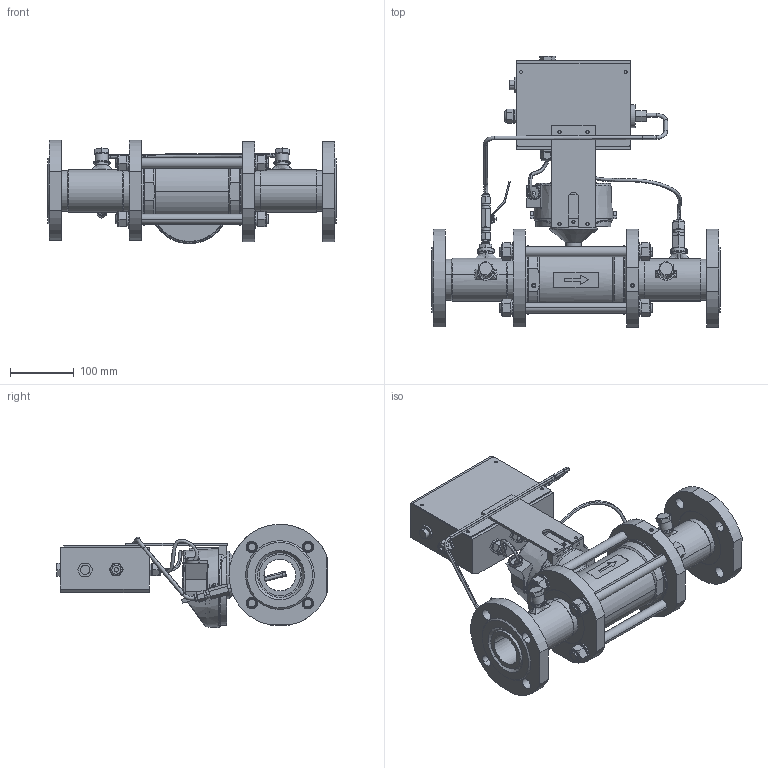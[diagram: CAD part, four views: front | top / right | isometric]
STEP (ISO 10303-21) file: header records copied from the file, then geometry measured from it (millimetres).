
FILE_DESCRIPTION((''),'2;1');
FILE_NAME('9_ASM','2020-12-24T',('solovki'),(''),'CREO PARAMETRIC BY PTC INC, 2018360','CREO PARAMETRIC BY PTC INC, 2018360','');
FILE_SCHEMA(('AUTOMOTIVE_DESIGN { 1 0 10303 214 1 1 1 1 }'));
Length unit declared in the file: millimetre
Products named in the file (36): 902; 903; 901_AF0_ASM; 905; 907_AF1; 908_AF1; 908_AF0; 909_AF1; 910_AF0; 906_ASM; 912_AF1; 908_AF3; 908_AF2; 913_AF1; 910_AF1; 911_ASM; 914; 915; 917; 918; 919; 920; 921; 916_ASM; 922; 923; 924; 925; 926; 927; 928; 929; 930; 931; 932; 9_ASM
Assembly tree (55 placements, depth 3):
  9_ASM
    901_AF0_ASM
      902
      903
    905  x2
    906_ASM
      907_AF1
      908_AF1
      908_AF0
      909_AF1
      910_AF0
    911_ASM
      912_AF1
      908_AF3
      908_AF2
      913_AF1
      910_AF1
    914
    915
    916_ASM
      917
      918
      919
      920
      921  x2
    922  x2
    923
    924
    925
    926
    927
    928
    929
    930  x4
    931  x8
    932  x8
Bounding box: 454 x 426.5 x 162.79 mm (x, y, z)
Volume: 5484673.7 mm3; surface area: 893741.3 mm2
Topology: 51 solids, 107 shells, 1539 faces, 3729 edges, 2416 vertices
Faces by surface type: plane 610, cylinder 593, cone 250, bspline 48, torus 35, sphere 2, extrusion 1
Entity records: 60996 total; most frequent: CARTESIAN_POINT 11523, DIRECTION 6618, ORIENTED_EDGE 5844, PRESENTATION_STYLE_ASSIGNMENT 4137, STYLED_ITEM 4137, EDGE_CURVE 3025, CURVE_STYLE 2918, AXIS2_PLACEMENT_3D 2626
